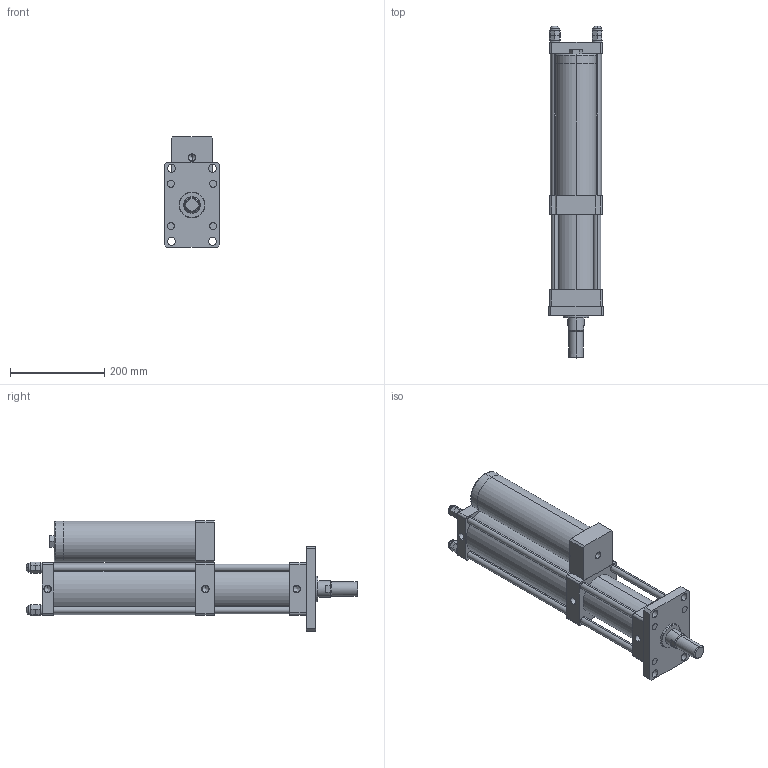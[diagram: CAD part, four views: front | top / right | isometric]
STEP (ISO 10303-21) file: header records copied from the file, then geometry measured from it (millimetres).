
FILE_DESCRIPTION (( 'STEP AP203' ), '1' );
FILE_NAME ('MPT-80-100-20-5T.STEP', '2016-03-11T01:38:49', ( 'WIN' ), ( '' ), 'SwSTEP 2.0', 'SolidWorks 2014', '' );
FILE_SCHEMA (( 'CONFIG_CONTROL_DESIGN' ));
Length unit declared in the file: millimetre
Products named in the file (1): MPT-80-100-20-5T
Bounding box: 118 x 705.13 x 235 mm (x, y, z)
Volume: 6612863.4 mm3; surface area: 713578.4 mm2
Topology: 20 solids, 20 shells, 391 faces, 954 edges, 554 vertices
Faces by surface type: plane 184, cylinder 84, torus 48, bspline 48, cone 27
Entity records: 12532 total; most frequent: CARTESIAN_POINT 3676, DIRECTION 1861, ORIENTED_EDGE 1776, EDGE_CURVE 888, AXIS2_PLACEMENT_3D 683, VERTEX_POINT 554, LINE 495, VECTOR 495
